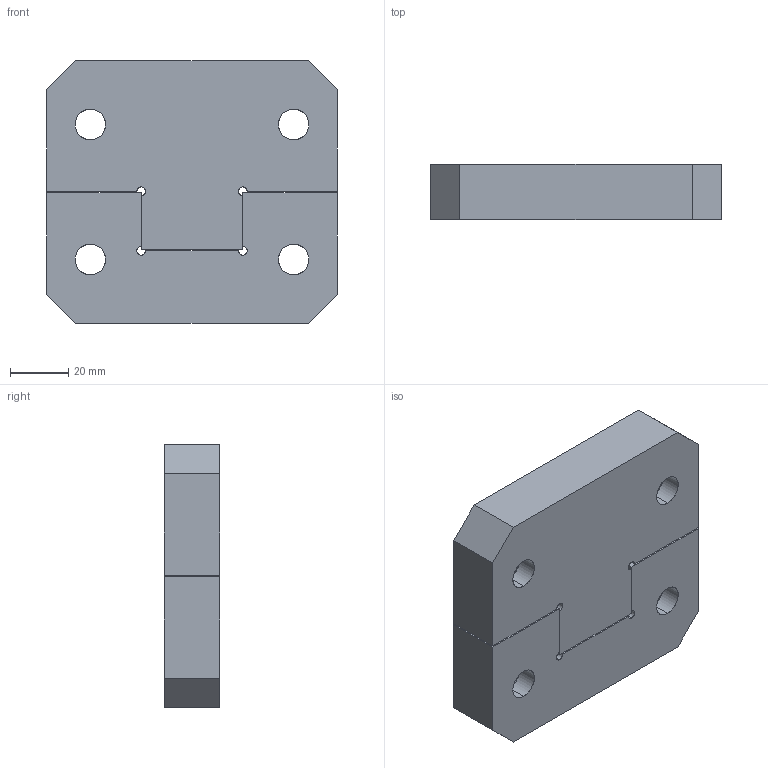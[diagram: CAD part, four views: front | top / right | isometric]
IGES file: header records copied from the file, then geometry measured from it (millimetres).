
Start section: SolidWorks IGES file using analytic representation for surfaces
Global section: file name: C:\Users\Maxiel\Desktop\Centralizador_Lateral\CN100L.igs; native system: SolidWorks 2014; preprocessor: SolidWorks 2014; author: Maxiel; date: 140927.142130; units: millimetre
Bounding box: 100 x 19 x 90.5 mm (x, y, z)
Surface area: 32757.1 mm2 (no closed solid volume)
Topology: 0 solids, 0 shells, 295 faces, 3606 edges, 3606 vertices
Faces by surface type: bspline 262, revolution 33
